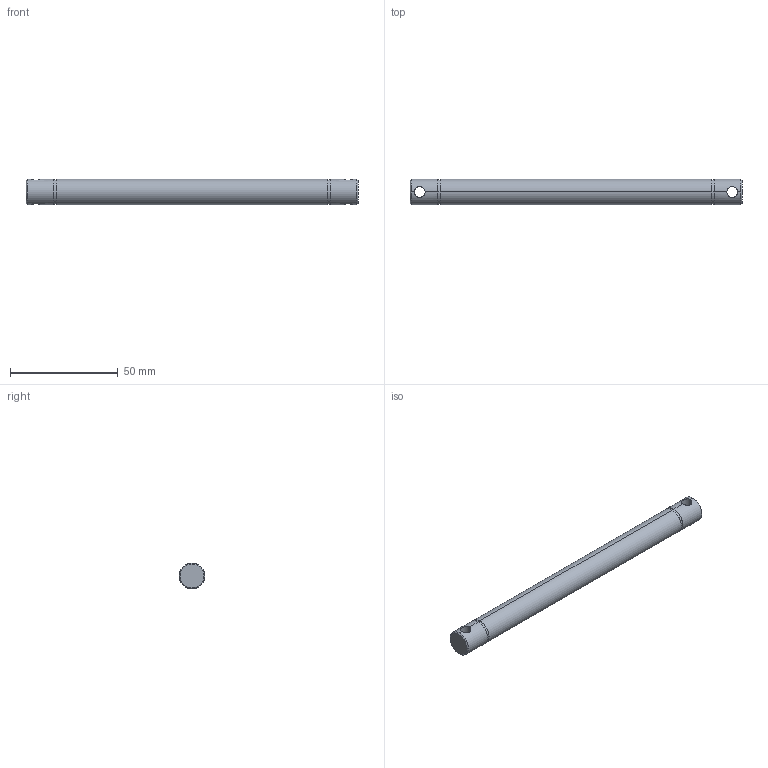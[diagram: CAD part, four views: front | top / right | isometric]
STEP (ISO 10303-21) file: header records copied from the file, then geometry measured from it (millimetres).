
FILE_DESCRIPTION (( 'STEP AP214' ), '1' );
FILE_NAME ('084.030.176.STEP', '2021-02-05T15:46:20', ( '' ), ( '' ), 'SwSTEP 2.0', 'SolidWorks 2018', '' );
FILE_SCHEMA (( 'AUTOMOTIVE_DESIGN' ));
Length unit declared in the file: millimetre
Products named in the file (1): 084.030.176
Bounding box: 154 x 12 x 12 mm (x, y, z)
Volume: 16926.7 mm3; surface area: 6322.3 mm2
Topology: 1 solids, 1 shells, 24 faces, 54 edges, 32 vertices
Faces by surface type: cylinder 14, plane 6, cone 4
Entity records: 976 total; most frequent: CARTESIAN_POINT 351, DIRECTION 120, ORIENTED_EDGE 108, EDGE_CURVE 54, AXIS2_PLACEMENT_3D 49, VERTEX_POINT 32, EDGE_LOOP 28, CIRCLE 24
